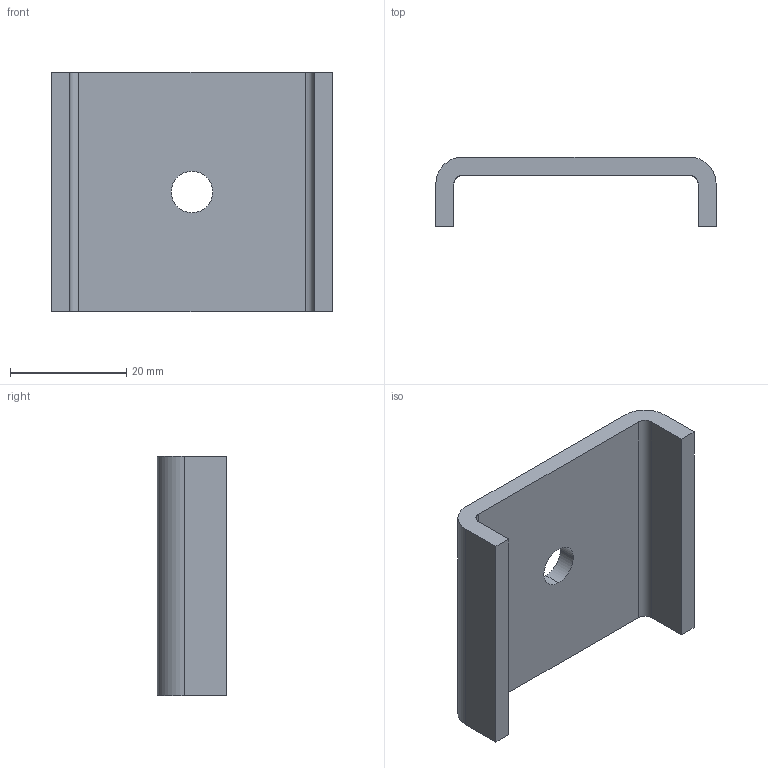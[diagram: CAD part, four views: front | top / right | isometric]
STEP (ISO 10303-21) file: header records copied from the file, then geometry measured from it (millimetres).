
FILE_DESCRIPTION(('TurboCAD Mac Pro'),'Build 980');
FILE_NAME('P2800-25.stp',' ',(''),(''),'ACIS Interop','IMSI','TurboCAD Mac Pro BY IMSI, INCORPORATED');
FILE_SCHEMA(('automotive_design'));
Length unit declared in the file: inch
Products named in the file (1): 1
Bounding box: 48.28 x 11.98 x 41.27 mm (x, y, z)
Volume: 8001.5 mm3; surface area: 5870.2 mm2
Topology: 1 solids, 1 shells, 18 faces, 48 edges, 32 vertices
Faces by surface type: plane 10, bspline 8
Entity records: 772 total; most frequent: CARTESIAN_POINT 203, ORIENTED_EDGE 96, DIRECTION 54, EDGE_CURVE 48, VERTEX_POINT 32, LINE 32, VECTOR 32, EDGE_LOOP 20
